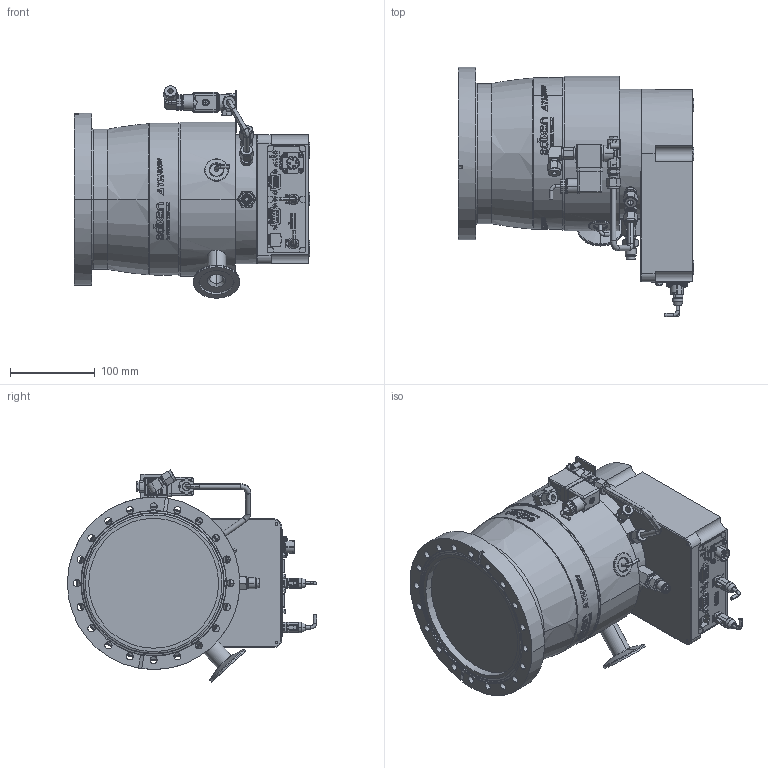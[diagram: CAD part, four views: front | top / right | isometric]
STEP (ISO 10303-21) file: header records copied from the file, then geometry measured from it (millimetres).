
FILE_DESCRIPTION((''),'2;1');
FILE_NAME('ENV-ATH500MT-GEN','2017-06-15T',('RCRIADO'),(''),'PRO/ENGINEER BY PARAMETRIC TECHNOLOGY CORPORATION, 2015280','PRO/ENGINEER BY PARAMETRIC TECHNOLOGY CORPORATION, 2015280','');
FILE_SCHEMA(('CONFIG_CONTROL_DESIGN'));
Products named in the file (1): ENV-ATH500MT-GEN
Bounding box: 277.99 x 293.55 x 250.1 mm (x, y, z)
Volume: 7022037.7 mm3; surface area: 399352.5 mm2
Topology: 4 solids, 28 shells, 5504 faces, 14724 edges, 9644 vertices
Faces by surface type: plane 3116, bspline 1146, cylinder 693, cone 269, extrusion 198, torus 63, sphere 19
Entity records: 196520 total; most frequent: CARTESIAN_POINT 65853, ORIENTED_EDGE 29426, DIRECTION 22686, EDGE_CURVE 14713, VECTOR 9744, VERTEX_POINT 9644, LINE 9546, AXIS2_PLACEMENT_3D 6471
